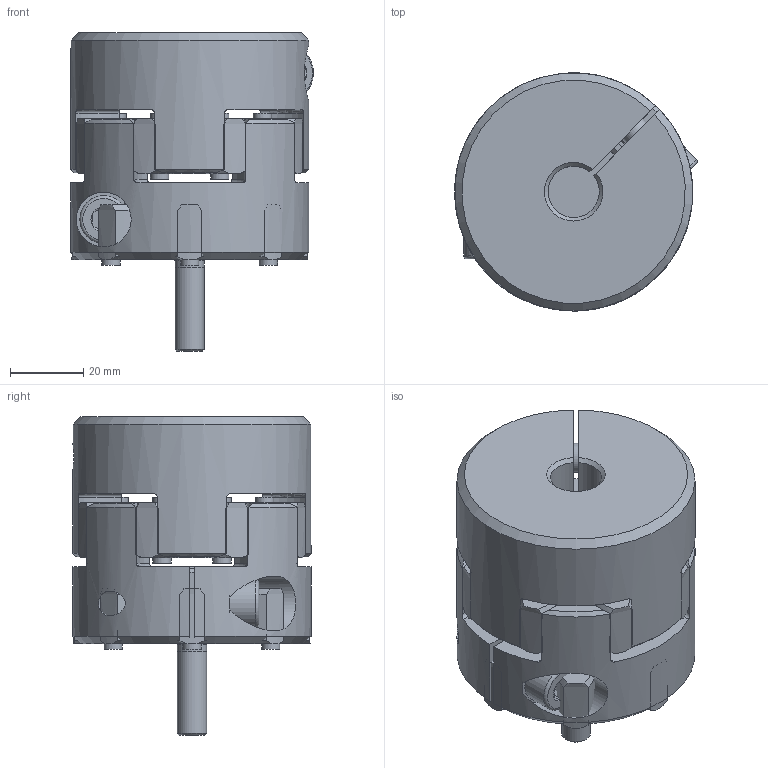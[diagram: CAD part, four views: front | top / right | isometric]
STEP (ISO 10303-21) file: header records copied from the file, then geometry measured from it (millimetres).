
FILE_DESCRIPTION( ( 'Unknown' ), '1' );
FILE_NAME( 'C:/Dokumente und Einstellungen/Sven/Desktop/homepage/cad - homepage/KBE2C/KBE2C-28.stp', 'Unknown', ( 'Unknown' ), ( 'Unknown' ), 'XStep 1.0', 'Unknown', ' ' );
FILE_SCHEMA( ( 'automotive_design' ) );
Length unit declared in the file: millimetre
Products named in the file (4): Assem1; KBE 2C - 28_Nabe; Zahnkranz EK28_Standard; ISO EN DIN 4762 M8x25
Bounding box: 66.28 x 65 x 87 mm (x, y, z)
Volume: 269793.5 mm3; surface area: 73834.9 mm2
Topology: 8 solids, 8 shells, 426 faces, 1019 edges, 644 vertices
Faces by surface type: cylinder 147, cone 144, plane 102, torus 33
Full cylindrical faces by diameter (mm): 5 x16, 6.8 x3, 7 x3, 8 x6, 9 x3, 13 x3, 30 x4
Entity records: 6130 total; most frequent: CARTESIAN_POINT 1485, DIRECTION 839, ORIENTED_EDGE 780, EDGE_CURVE 390, AXIS2_PLACEMENT_3D 384, VERTEX_POINT 260, EDGE_LOOP 210, CIRCLE 207
